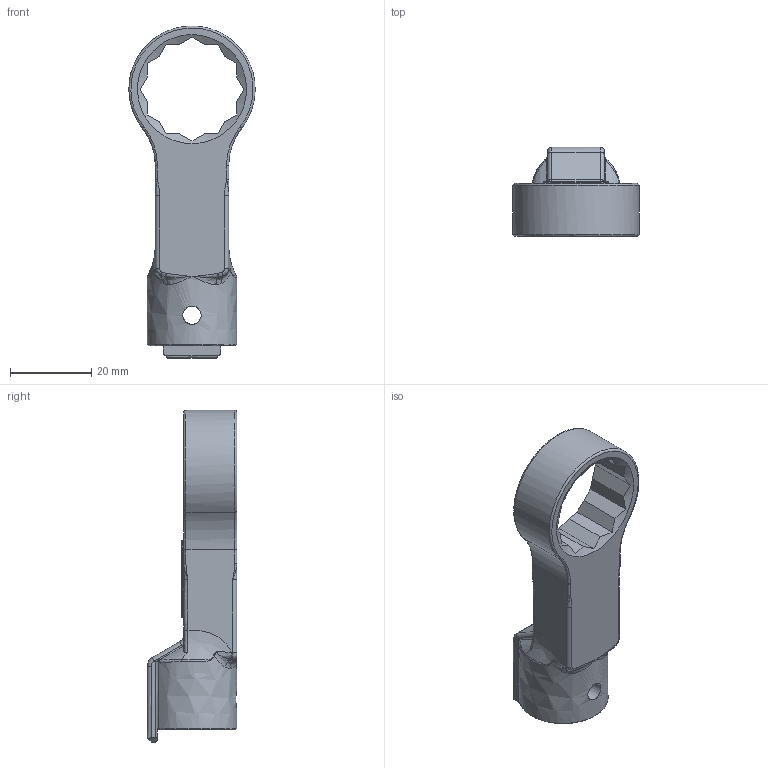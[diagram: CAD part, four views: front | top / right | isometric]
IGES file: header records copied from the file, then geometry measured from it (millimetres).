
Global section: file name: RH15DX22; native system: Autodesk Inventor 2016; preprocessor: unknown; author: Q600; date: 20151110.161826; units: millimetre
Bounding box: 31 x 22 x 81.5 mm (x, y, z)
Volume: 15218.9 mm3; surface area: 7188.1 mm2
Topology: 1 solids, 1 shells, 166 faces, 435 edges, 256 vertices
Faces by surface type: bspline 166
